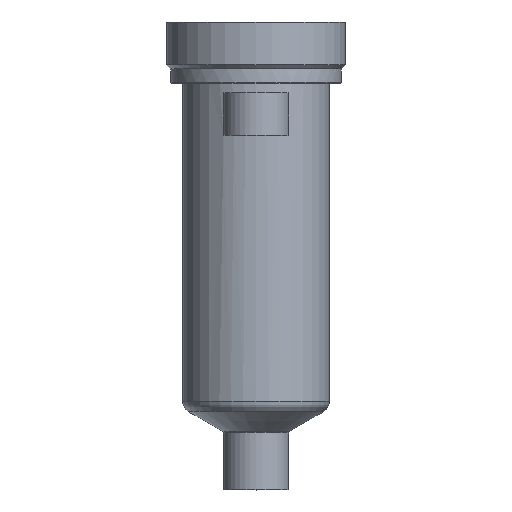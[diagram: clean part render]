
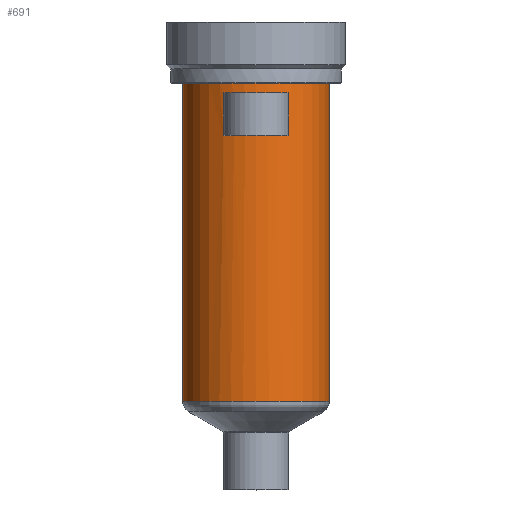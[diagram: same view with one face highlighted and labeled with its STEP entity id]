
A CAD part, top view. The second image highlights one B-rep face of the part: STEP entity #691.
In plain terms, the highlighted cylindrical face has radius 18 mm (diameter 36 mm), a partial arc.
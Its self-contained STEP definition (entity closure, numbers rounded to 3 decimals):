
#187=DIRECTION('',(0.,-1.,0.));
#188=VECTOR('',#187,78.206);
#189=CARTESIAN_POINT('',(18.,0.,0.));
#190=LINE('',#189,#188);
#191=CARTESIAN_POINT('',(0.,-78.206,0.));
#192=DIRECTION('',(0.,1.,0.));
#193=DIRECTION('',(-1.,0.,0.));
#194=AXIS2_PLACEMENT_3D('',#191,#192,#193);
#196=DIRECTION('',(0.,1.,0.));
#197=VECTOR('',#196,78.206);
#198=CARTESIAN_POINT('',(-18.,-78.206,0.));
#199=LINE('',#198,#197);
#200=CARTESIAN_POINT('',(0.,0.,0.));
#201=DIRECTION('',(0.,1.,0.));
#202=DIRECTION('',(-1.,0.,0.));
#203=AXIS2_PLACEMENT_3D('',#200,#201,#202);
#281=DIRECTION('',(0.,-1.,0.));
#282=VECTOR('',#281,10.5);
#283=CARTESIAN_POINT('',(-8.,-2.5,16.125));
#284=LINE('',#283,#282);
#285=CARTESIAN_POINT('',(0.,-13.,0.));
#286=DIRECTION('',(0.,1.,0.));
#287=DIRECTION('',(-0.444,0.,0.896));
#288=AXIS2_PLACEMENT_3D('',#285,#286,#287);
#311=CARTESIAN_POINT('',(0.,-2.5,0.));
#312=DIRECTION('',(0.,-1.,0.));
#313=DIRECTION('',(0.444,0.,0.896));
#314=AXIS2_PLACEMENT_3D('',#311,#312,#313);
#329=DIRECTION('',(0.,-1.,0.));
#330=VECTOR('',#329,10.5);
#331=CARTESIAN_POINT('',(8.,-2.5,16.125));
#332=LINE('',#331,#330);
#390=CARTESIAN_POINT('',(-18.,0.,0.));
#391=CARTESIAN_POINT('',(18.,0.,0.));
#392=VERTEX_POINT('',#390);
#393=VERTEX_POINT('',#391);
#402=CARTESIAN_POINT('',(-8.,-2.5,16.125));
#403=VERTEX_POINT('',#402);
#404=CARTESIAN_POINT('',(8.,-2.5,16.125));
#405=VERTEX_POINT('',#404);
#438=CARTESIAN_POINT('',(18.,-78.206,0.));
#439=VERTEX_POINT('',#438);
#448=CARTESIAN_POINT('',(-18.,-78.206,0.));
#449=VERTEX_POINT('',#448);
#450=CARTESIAN_POINT('',(-8.,-13.,16.125));
#451=CARTESIAN_POINT('',(8.,-13.,16.125));
#452=VERTEX_POINT('',#450);
#453=VERTEX_POINT('',#451);
#669=CARTESIAN_POINT('',(0.,16.4,0.));
#670=DIRECTION('',(0.,-1.,0.));
#671=DIRECTION('',(-1.,0.,0.));
#672=AXIS2_PLACEMENT_3D('',#669,#670,#671);
#673=CYLINDRICAL_SURFACE('',#672,18.);
#674=ORIENTED_EDGE('',*,*,#663,.T.);
#676=ORIENTED_EDGE('',*,*,#675,.F.);
#677=ORIENTED_EDGE('',*,*,#659,.T.);
#678=ORIENTED_EDGE('',*,*,#649,.T.);
#679=EDGE_LOOP('',(#674,#676,#677,#678));
#680=FACE_OUTER_BOUND('',#679,.F.);
#682=ORIENTED_EDGE('',*,*,#681,.T.);
#684=ORIENTED_EDGE('',*,*,#683,.T.);
#686=ORIENTED_EDGE('',*,*,#685,.F.);
#688=ORIENTED_EDGE('',*,*,#687,.T.);
#689=EDGE_LOOP('',(#682,#684,#686,#688));
#690=FACE_BOUND('',#689,.F.);
#691=ADVANCED_FACE('',(#680,#690),#673,.T.);
#195=CIRCLE('',#194,18.);
#204=CIRCLE('',#203,18.);
#289=CIRCLE('',#288,18.);
#315=CIRCLE('',#314,18.);
#649=EDGE_CURVE('',#392,#393,#204,.T.);
#659=EDGE_CURVE('',#449,#392,#199,.T.);
#663=EDGE_CURVE('',#393,#439,#190,.T.);
#675=EDGE_CURVE('',#449,#439,#195,.T.);
#681=EDGE_CURVE('',#403,#452,#284,.T.);
#683=EDGE_CURVE('',#452,#453,#289,.T.);
#685=EDGE_CURVE('',#405,#453,#332,.T.);
#687=EDGE_CURVE('',#405,#403,#315,.T.);
